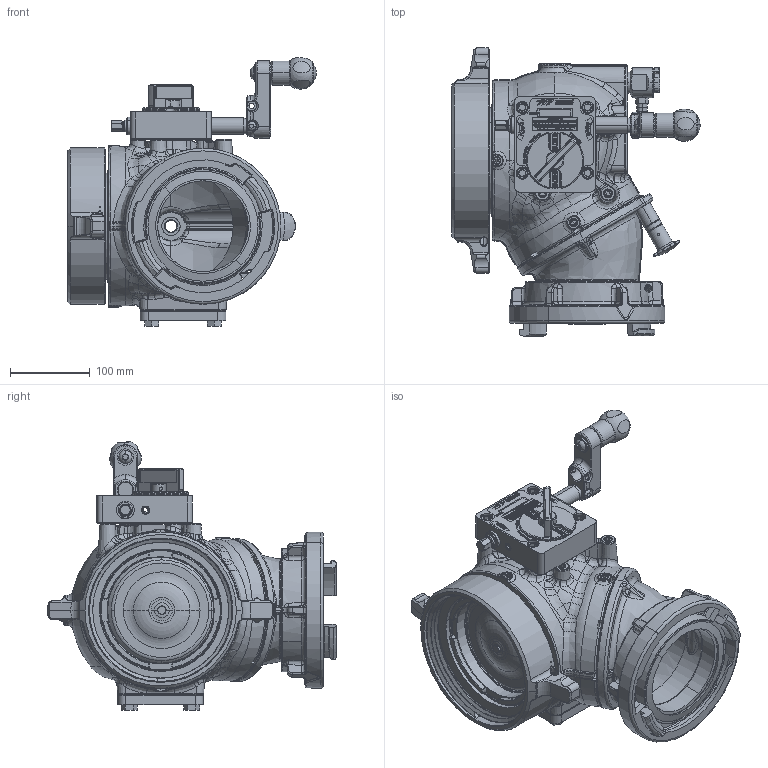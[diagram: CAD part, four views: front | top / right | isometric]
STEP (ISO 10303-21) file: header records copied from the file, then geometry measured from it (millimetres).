
FILE_DESCRIPTION (( 'STEP AP203' ), '1' );
FILE_NAME ('AZD1ST-NX-F.STEP', '2015-03-26T14:58:28', ( '' ), ( '' ), 'SwSTEP 2.0', 'SolidWorks 2015', '' );
FILE_SCHEMA (( 'CONFIG_CONTROL_DESIGN' ));
Products named in the file (1): AZD1ST-NX-F
Bounding box: 312.41 x 362.3 x 337.98 mm (x, y, z)
Surface area: 607523.4 mm2 (no closed solid volume)
Topology: 0 solids, 320 shells, 2755 faces, 17760 edges, 15096 vertices
Faces by surface type: plane 1042, cylinder 536, bspline 531, cone 335, torus 276, sphere 35
Entity records: 241741 total; most frequent: CARTESIAN_POINT 122039, ORIENTED_EDGE 22987, DIRECTION 19481, EDGE_CURVE 17745, VERTEX_POINT 15094, LINE 9659, VECTOR 9659, B_SPLINE_CURVE_WITH_KNOTS 5007
